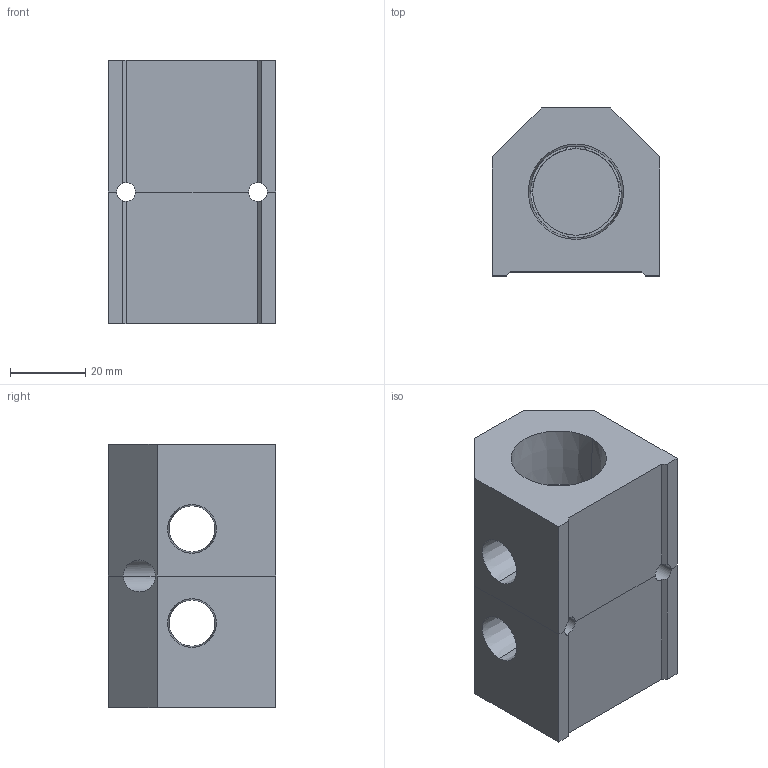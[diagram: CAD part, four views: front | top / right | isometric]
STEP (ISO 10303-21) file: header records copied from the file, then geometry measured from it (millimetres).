
FILE_DESCRIPTION (( 'STEP AP214' ), '1' );
FILE_NAME ('ALM2ACE-N4N12-70RB.step', '2022-02-06T14:18:30', ( '' ), ( '' ), 'SwSTEP 2.0', 'SolidWorks 2020', '' );
FILE_SCHEMA (( 'AUTOMOTIVE_DESIGN' ));
Length unit declared in the file: millimetre
Products named in the file (1): ALM2ACE-N4N12-70RB
Bounding box: 44.5 x 44.5 x 70 mm (x, y, z)
Volume: 83727.8 mm3; surface area: 25086.3 mm2
Topology: 2 solids, 2 shells, 335 faces, 902 edges, 598 vertices
Faces by surface type: plane 241, bspline 50, cone 22, cylinder 22
Entity records: 17513 total; most frequent: CARTESIAN_POINT 6360, ORIENTED_EDGE 1804, DIRECTION 1368, EDGE_CURVE 902, LINE 668, VECTOR 668, VERTEX_POINT 598, EDGE_LOOP 374
